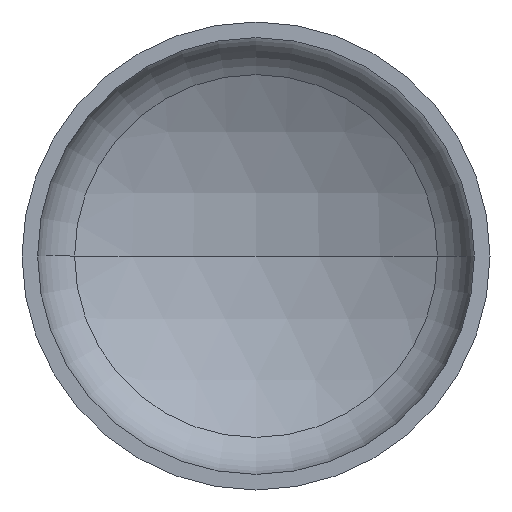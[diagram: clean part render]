
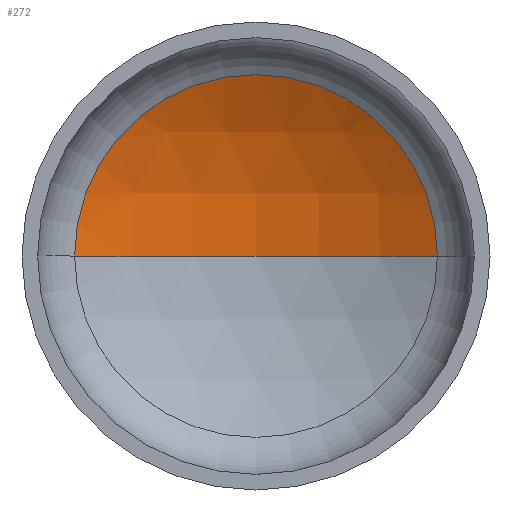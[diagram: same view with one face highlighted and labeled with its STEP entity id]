
A CAD part, front view. The second image highlights one B-rep face of the part: STEP entity #272.
In plain terms, the highlighted spherical face has radius 2400 mm.
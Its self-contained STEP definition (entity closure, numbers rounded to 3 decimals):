
#10 = CARTESIAN_POINT ( 'NONE',  ( -1162.887, 502.395, 0. ) ) ;
#14 = VERTEX_POINT ( 'NONE', #273 ) ;
#15 = AXIS2_PLACEMENT_3D ( 'NONE', #142, #145, #301 ) ;
#18 = AXIS2_PLACEMENT_3D ( 'NONE', #252, #337, #97 ) ;
#20 = AXIS2_PLACEMENT_3D ( 'NONE', #123, #124, #136 ) ;
#28 = AXIS2_PLACEMENT_3D ( 'NONE', #54, #172, #184 ) ;
#45 = EDGE_LOOP ( 'NONE', ( #242, #178, #73 ) ) ;
#54 = CARTESIAN_POINT ( 'NONE',  ( 0., -1597.056, 0. ) ) ;
#73 = ORIENTED_EDGE ( 'NONE', *, *, #333, .T. ) ;
#78 = SPHERICAL_SURFACE ( 'NONE', #28, 2400. ) ;
#97 = DIRECTION ( 'NONE',  ( 1., 0., 0. ) ) ;
#123 = CARTESIAN_POINT ( 'NONE',  ( 0., 502.395, 0. ) ) ;
#124 = DIRECTION ( 'NONE',  ( 0., -1., 0. ) ) ;
#135 = VERTEX_POINT ( 'NONE', #204 ) ;
#136 = DIRECTION ( 'NONE',  ( 1., 0., 0. ) ) ;
#142 = CARTESIAN_POINT ( 'NONE',  ( 0., -1597.056, 0. ) ) ;
#145 = DIRECTION ( 'NONE',  ( 0., 0., -1. ) ) ;
#146 = CIRCLE ( 'NONE', #15, 2400. ) ;
#172 = DIRECTION ( 'NONE',  ( 0., 0., -1. ) ) ;
#178 = ORIENTED_EDGE ( 'NONE', *, *, #344, .T. ) ;
#184 = DIRECTION ( 'NONE',  ( -1., 0., 0. ) ) ;
#200 = VERTEX_POINT ( 'NONE', #10 ) ;
#204 = CARTESIAN_POINT ( 'NONE',  ( 1162.887, 502.395, 0. ) ) ;
#242 = ORIENTED_EDGE ( 'NONE', *, *, #346, .F. ) ;
#252 = CARTESIAN_POINT ( 'NONE',  ( 0., -1597.056, 0. ) ) ;
#272 = ADVANCED_FACE ( 'NONE', ( #379 ), #78, .F. ) ;
#273 = CARTESIAN_POINT ( 'NONE',  ( 0., 802.944, 0. ) ) ;
#301 = DIRECTION ( 'NONE',  ( -1., 0., 0. ) ) ;
#303 = CIRCLE ( 'NONE', #18, 2400. ) ;
#309 = CIRCLE ( 'NONE', #20, 1162.887 ) ;
#333 = EDGE_CURVE ( 'NONE', #135, #200, #309, .T. ) ;
#337 = DIRECTION ( 'NONE',  ( 0., 0., 1. ) ) ;
#344 = EDGE_CURVE ( 'NONE', #14, #135, #146, .T. ) ;
#346 = EDGE_CURVE ( 'NONE', #14, #200, #303, .T. ) ;
#379 = FACE_OUTER_BOUND ( 'NONE', #45, .T. ) ;
